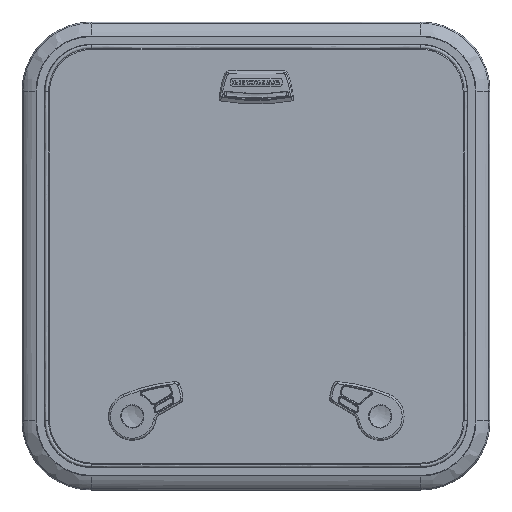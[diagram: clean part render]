
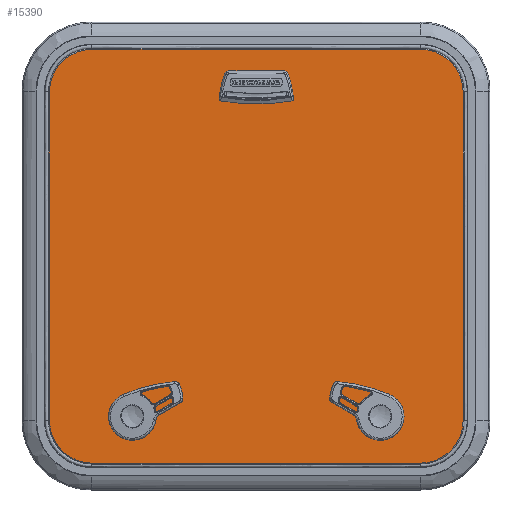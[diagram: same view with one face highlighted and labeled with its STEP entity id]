
A CAD part, top view. The second image highlights one B-rep face of the part: STEP entity #15390.
In plain terms, the highlighted planar face has unit normal (0, 0, 1) as drawn and (0, 1, 0) by its records, which use the part's own axes.
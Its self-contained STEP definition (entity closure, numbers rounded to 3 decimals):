
#14437=CARTESIAN_POINT('',(21.55,8.,-181.5));
#14438=DIRECTION('',(0.,-1.,0.));
#14439=DIRECTION('',(0.,0.,-1.));
#14440=AXIS2_PLACEMENT_3D('',#14437,#14438,#14439);
#14442=DIRECTION('',(1.,0.,0.));
#14443=VECTOR('',#14442,43.1);
#14444=CARTESIAN_POINT('',(-21.55,8.,-187.));
#14445=LINE('',#14444,#14443);
#14446=CARTESIAN_POINT('',(-21.55,8.,-181.5));
#14447=DIRECTION('',(0.,-1.,0.));
#14448=DIRECTION('',(0.,0.,1.));
#14449=AXIS2_PLACEMENT_3D('',#14446,#14447,#14448);
#14451=DIRECTION('',(-1.,0.,0.));
#14452=VECTOR('',#14451,43.1);
#14453=CARTESIAN_POINT('',(21.55,8.,-176.));
#14454=LINE('',#14453,#14452);
#14455=CARTESIAN_POINT('',(-125.198,8.,171.117));
#14456=DIRECTION('',(0.,-1.,0.));
#14457=DIRECTION('',(0.866,0.,-0.5));
#14458=AXIS2_PLACEMENT_3D('',#14455,#14456,#14457);
#14460=DIRECTION('',(0.5,0.,0.866));
#14461=VECTOR('',#14460,10.2);
#14462=CARTESIAN_POINT('',(-125.968,8.,159.783));
#14463=LINE('',#14462,#14461);
#14464=CARTESIAN_POINT('',(-130.298,8.,162.283));
#14465=DIRECTION('',(0.,-1.,0.));
#14466=DIRECTION('',(-0.5,0.,-0.866));
#14467=AXIS2_PLACEMENT_3D('',#14464,#14465,#14466);
#14469=DIRECTION('',(0.866,0.,-0.5));
#14470=VECTOR('',#14469,5.2);
#14471=CARTESIAN_POINT('',(-137.302,8.,160.553));
#14472=LINE('',#14471,#14470);
#14473=CARTESIAN_POINT('',(-134.802,8.,164.883));
#14474=DIRECTION('',(0.,-1.,0.));
#14475=DIRECTION('',(-0.866,0.,0.5));
#14476=AXIS2_PLACEMENT_3D('',#14473,#14474,#14475);
#14478=DIRECTION('',(-0.5,0.,-0.866));
#14479=VECTOR('',#14478,10.2);
#14480=CARTESIAN_POINT('',(-134.032,8.,176.217));
#14481=LINE('',#14480,#14479);
#14482=CARTESIAN_POINT('',(-129.702,8.,173.717));
#14483=DIRECTION('',(0.,-1.,0.));
#14484=DIRECTION('',(0.5,0.,0.866));
#14485=AXIS2_PLACEMENT_3D('',#14482,#14483,#14484);
#14487=DIRECTION('',(-0.866,0.,0.5));
#14488=VECTOR('',#14487,5.2);
#14489=CARTESIAN_POINT('',(-122.698,8.,175.447));
#14490=LINE('',#14489,#14488);
#14491=CARTESIAN_POINT('',(125.198,8.,171.117));
#14492=DIRECTION('',(0.,1.,0.));
#14493=DIRECTION('',(-0.866,0.,-0.5));
#14494=AXIS2_PLACEMENT_3D('',#14491,#14492,#14493);
#14496=DIRECTION('',(0.866,0.,0.5));
#14497=VECTOR('',#14496,5.2);
#14498=CARTESIAN_POINT('',(122.698,8.,175.447));
#14499=LINE('',#14498,#14497);
#14500=CARTESIAN_POINT('',(129.702,8.,173.717));
#14501=DIRECTION('',(0.,1.,0.));
#14502=DIRECTION('',(-0.5,0.,0.866));
#14503=AXIS2_PLACEMENT_3D('',#14500,#14501,#14502);
#14505=DIRECTION('',(0.5,0.,-0.866));
#14506=VECTOR('',#14505,10.2);
#14507=CARTESIAN_POINT('',(134.032,8.,176.217));
#14508=LINE('',#14507,#14506);
#14509=CARTESIAN_POINT('',(134.802,8.,164.883));
#14510=DIRECTION('',(0.,1.,0.));
#14511=DIRECTION('',(0.866,0.,0.5));
#14512=AXIS2_PLACEMENT_3D('',#14509,#14510,#14511);
#14514=DIRECTION('',(-0.866,0.,-0.5));
#14515=VECTOR('',#14514,5.2);
#14516=CARTESIAN_POINT('',(137.302,8.,160.553));
#14517=LINE('',#14516,#14515);
#14518=CARTESIAN_POINT('',(130.298,8.,162.283));
#14519=DIRECTION('',(0.,1.,0.));
#14520=DIRECTION('',(0.5,0.,-0.866));
#14521=AXIS2_PLACEMENT_3D('',#14518,#14519,#14520);
#14523=DIRECTION('',(-0.5,0.,0.866));
#14524=VECTOR('',#14523,10.2);
#14525=CARTESIAN_POINT('',(125.968,8.,159.783));
#14526=LINE('',#14525,#14524);
#14527=DIRECTION('',(-1.,0.,0.));
#14528=VECTOR('',#14527,345.);
#14529=CARTESIAN_POINT('',(172.5,8.,-217.));
#14530=LINE('',#14529,#14528);
#14531=CARTESIAN_POINT('',(172.5,8.,-172.5));
#14532=DIRECTION('',(0.,1.,0.));
#14533=DIRECTION('',(1.,0.,0.));
#14534=AXIS2_PLACEMENT_3D('',#14531,#14532,#14533);
#14536=DIRECTION('',(0.,0.,-1.));
#14537=VECTOR('',#14536,345.);
#14538=CARTESIAN_POINT('',(217.,8.,172.5));
#14539=LINE('',#14538,#14537);
#14540=CARTESIAN_POINT('',(172.5,8.,172.5));
#14541=DIRECTION('',(0.,1.,0.));
#14542=DIRECTION('',(0.,0.,1.));
#14543=AXIS2_PLACEMENT_3D('',#14540,#14541,#14542);
#14545=DIRECTION('',(1.,0.,0.));
#14546=VECTOR('',#14545,345.);
#14547=CARTESIAN_POINT('',(-172.5,8.,217.));
#14548=LINE('',#14547,#14546);
#14549=CARTESIAN_POINT('',(-172.5,8.,172.5));
#14550=DIRECTION('',(0.,1.,0.));
#14551=DIRECTION('',(-1.,0.,0.));
#14552=AXIS2_PLACEMENT_3D('',#14549,#14550,#14551);
#14554=DIRECTION('',(0.,0.,1.));
#14555=VECTOR('',#14554,345.);
#14556=CARTESIAN_POINT('',(-217.,8.,-172.5));
#14557=LINE('',#14556,#14555);
#14558=CARTESIAN_POINT('',(-172.5,8.,-172.5));
#14559=DIRECTION('',(0.,1.,0.));
#14560=DIRECTION('',(0.,0.,-1.));
#14561=AXIS2_PLACEMENT_3D('',#14558,#14559,#14560);
#14802=CARTESIAN_POINT('',(21.55,8.,-187.));
#14803=CARTESIAN_POINT('',(21.55,8.,-176.));
#14804=VERTEX_POINT('',#14802);
#14805=VERTEX_POINT('',#14803);
#14806=CARTESIAN_POINT('',(-21.55,8.,-176.));
#14807=VERTEX_POINT('',#14806);
#14808=CARTESIAN_POINT('',(-21.55,8.,-187.));
#14809=VERTEX_POINT('',#14808);
#14858=CARTESIAN_POINT('',(-120.868,8.,168.617));
#14859=CARTESIAN_POINT('',(-122.698,8.,175.447));
#14860=VERTEX_POINT('',#14858);
#14861=VERTEX_POINT('',#14859);
#14862=CARTESIAN_POINT('',(-127.202,8.,178.047));
#14863=VERTEX_POINT('',#14862);
#14864=CARTESIAN_POINT('',(-134.032,8.,176.217));
#14865=VERTEX_POINT('',#14864);
#14866=CARTESIAN_POINT('',(-139.132,8.,167.383));
#14867=VERTEX_POINT('',#14866);
#14868=CARTESIAN_POINT('',(-137.302,8.,160.553));
#14869=VERTEX_POINT('',#14868);
#14870=CARTESIAN_POINT('',(-132.798,8.,157.953));
#14871=VERTEX_POINT('',#14870);
#14872=CARTESIAN_POINT('',(-125.968,8.,159.783));
#14873=VERTEX_POINT('',#14872);
#14890=CARTESIAN_POINT('',(120.868,8.,168.617));
#14891=CARTESIAN_POINT('',(122.698,8.,175.447));
#14892=VERTEX_POINT('',#14890);
#14893=VERTEX_POINT('',#14891);
#14894=CARTESIAN_POINT('',(127.202,8.,178.047));
#14895=VERTEX_POINT('',#14894);
#14896=CARTESIAN_POINT('',(134.032,8.,176.217));
#14897=VERTEX_POINT('',#14896);
#14898=CARTESIAN_POINT('',(139.132,8.,167.383));
#14899=VERTEX_POINT('',#14898);
#14900=CARTESIAN_POINT('',(137.302,8.,160.553));
#14901=VERTEX_POINT('',#14900);
#14902=CARTESIAN_POINT('',(132.798,8.,157.953));
#14903=VERTEX_POINT('',#14902);
#14904=CARTESIAN_POINT('',(125.968,8.,159.783));
#14905=VERTEX_POINT('',#14904);
#14906=CARTESIAN_POINT('',(172.5,8.,-217.));
#14907=CARTESIAN_POINT('',(-172.5,8.,-217.));
#14908=VERTEX_POINT('',#14906);
#14909=VERTEX_POINT('',#14907);
#14910=CARTESIAN_POINT('',(-217.,8.,-172.5));
#14911=VERTEX_POINT('',#14910);
#14912=CARTESIAN_POINT('',(-217.,8.,172.5));
#14913=VERTEX_POINT('',#14912);
#14914=CARTESIAN_POINT('',(-172.5,8.,217.));
#14915=VERTEX_POINT('',#14914);
#14916=CARTESIAN_POINT('',(172.5,8.,217.));
#14917=VERTEX_POINT('',#14916);
#14918=CARTESIAN_POINT('',(217.,8.,172.5));
#14919=VERTEX_POINT('',#14918);
#14920=CARTESIAN_POINT('',(217.,8.,-172.5));
#14921=VERTEX_POINT('',#14920);
#15322=CARTESIAN_POINT('',(0.,8.,0.));
#15323=DIRECTION('',(0.,1.,0.));
#15324=DIRECTION('',(1.,0.,0.));
#15325=AXIS2_PLACEMENT_3D('',#15322,#15323,#15324);
#15326=PLANE('',#15325);
#15328=ORIENTED_EDGE('',*,*,#15327,.F.);
#15330=ORIENTED_EDGE('',*,*,#15329,.F.);
#15332=ORIENTED_EDGE('',*,*,#15331,.F.);
#15333=ORIENTED_EDGE('',*,*,#15312,.F.);
#15335=ORIENTED_EDGE('',*,*,#15334,.F.);
#15337=ORIENTED_EDGE('',*,*,#15336,.F.);
#15339=ORIENTED_EDGE('',*,*,#15338,.F.);
#15341=ORIENTED_EDGE('',*,*,#15340,.F.);
#15342=EDGE_LOOP('',(#15328,#15330,#15332,#15333,#15335,#15337,#15339,#15341));
#15343=FACE_OUTER_BOUND('',#15342,.F.);
#15345=ORIENTED_EDGE('',*,*,#15344,.F.);
#15347=ORIENTED_EDGE('',*,*,#15346,.F.);
#15349=ORIENTED_EDGE('',*,*,#15348,.F.);
#15351=ORIENTED_EDGE('',*,*,#15350,.F.);
#15352=EDGE_LOOP('',(#15345,#15347,#15349,#15351));
#15353=FACE_BOUND('',#15352,.F.);
#15355=ORIENTED_EDGE('',*,*,#15354,.F.);
#15357=ORIENTED_EDGE('',*,*,#15356,.F.);
#15359=ORIENTED_EDGE('',*,*,#15358,.F.);
#15361=ORIENTED_EDGE('',*,*,#15360,.F.);
#15363=ORIENTED_EDGE('',*,*,#15362,.F.);
#15365=ORIENTED_EDGE('',*,*,#15364,.F.);
#15367=ORIENTED_EDGE('',*,*,#15366,.F.);
#15369=ORIENTED_EDGE('',*,*,#15368,.F.);
#15370=EDGE_LOOP('',(#15355,#15357,#15359,#15361,#15363,#15365,#15367,#15369));
#15371=FACE_BOUND('',#15370,.F.);
#15373=ORIENTED_EDGE('',*,*,#15372,.T.);
#15375=ORIENTED_EDGE('',*,*,#15374,.T.);
#15377=ORIENTED_EDGE('',*,*,#15376,.T.);
#15379=ORIENTED_EDGE('',*,*,#15378,.T.);
#15381=ORIENTED_EDGE('',*,*,#15380,.T.);
#15383=ORIENTED_EDGE('',*,*,#15382,.T.);
#15385=ORIENTED_EDGE('',*,*,#15384,.T.);
#15387=ORIENTED_EDGE('',*,*,#15386,.T.);
#15388=EDGE_LOOP('',(#15373,#15375,#15377,#15379,#15381,#15383,#15385,#15387));
#15389=FACE_BOUND('',#15388,.F.);
#15390=ADVANCED_FACE('',(#15343,#15353,#15371,#15389),#15326,.T.);
#14441=CIRCLE('',#14440,5.5);
#14450=CIRCLE('',#14449,5.5);
#14459=CIRCLE('',#14458,5.);
#14468=CIRCLE('',#14467,5.);
#14477=CIRCLE('',#14476,5.);
#14486=CIRCLE('',#14485,5.);
#14495=CIRCLE('',#14494,5.);
#14504=CIRCLE('',#14503,5.);
#14513=CIRCLE('',#14512,5.);
#14522=CIRCLE('',#14521,5.);
#14535=CIRCLE('',#14534,44.5);
#14544=CIRCLE('',#14543,44.5);
#14553=CIRCLE('',#14552,44.5);
#14562=CIRCLE('',#14561,44.5);
#15312=EDGE_CURVE('',#14917,#14919,#14544,.T.);
#15327=EDGE_CURVE('',#14908,#14909,#14530,.T.);
#15329=EDGE_CURVE('',#14921,#14908,#14535,.T.);
#15331=EDGE_CURVE('',#14919,#14921,#14539,.T.);
#15334=EDGE_CURVE('',#14915,#14917,#14548,.T.);
#15336=EDGE_CURVE('',#14913,#14915,#14553,.T.);
#15338=EDGE_CURVE('',#14911,#14913,#14557,.T.);
#15340=EDGE_CURVE('',#14909,#14911,#14562,.T.);
#15344=EDGE_CURVE('',#14804,#14805,#14441,.T.);
#15346=EDGE_CURVE('',#14809,#14804,#14445,.T.);
#15348=EDGE_CURVE('',#14807,#14809,#14450,.T.);
#15350=EDGE_CURVE('',#14805,#14807,#14454,.T.);
#15354=EDGE_CURVE('',#14860,#14861,#14459,.T.);
#15356=EDGE_CURVE('',#14873,#14860,#14463,.T.);
#15358=EDGE_CURVE('',#14871,#14873,#14468,.T.);
#15360=EDGE_CURVE('',#14869,#14871,#14472,.T.);
#15362=EDGE_CURVE('',#14867,#14869,#14477,.T.);
#15364=EDGE_CURVE('',#14865,#14867,#14481,.T.);
#15366=EDGE_CURVE('',#14863,#14865,#14486,.T.);
#15368=EDGE_CURVE('',#14861,#14863,#14490,.T.);
#15372=EDGE_CURVE('',#14892,#14893,#14495,.T.);
#15374=EDGE_CURVE('',#14893,#14895,#14499,.T.);
#15376=EDGE_CURVE('',#14895,#14897,#14504,.T.);
#15378=EDGE_CURVE('',#14897,#14899,#14508,.T.);
#15380=EDGE_CURVE('',#14899,#14901,#14513,.T.);
#15382=EDGE_CURVE('',#14901,#14903,#14517,.T.);
#15384=EDGE_CURVE('',#14903,#14905,#14522,.T.);
#15386=EDGE_CURVE('',#14905,#14892,#14526,.T.);
